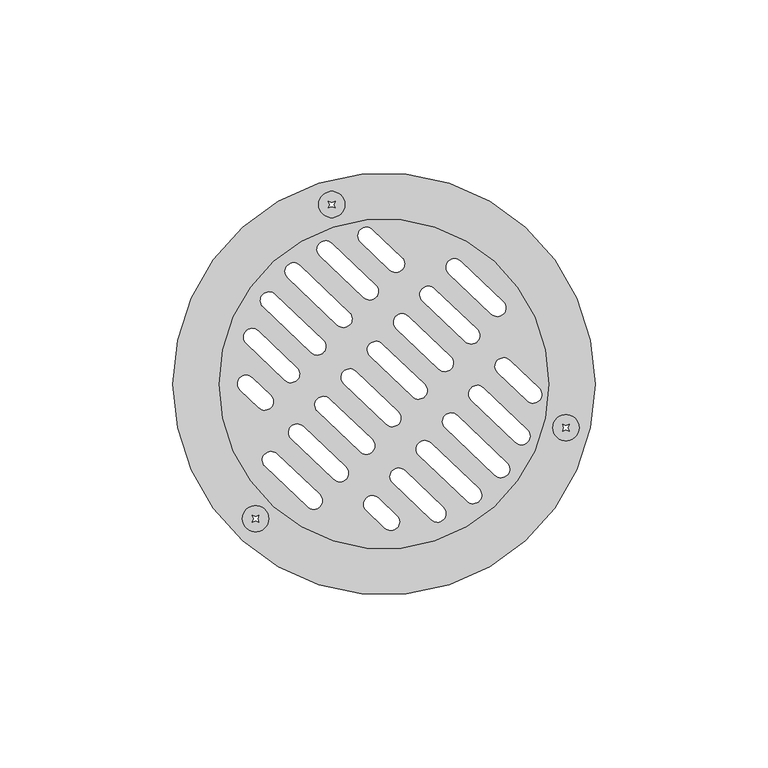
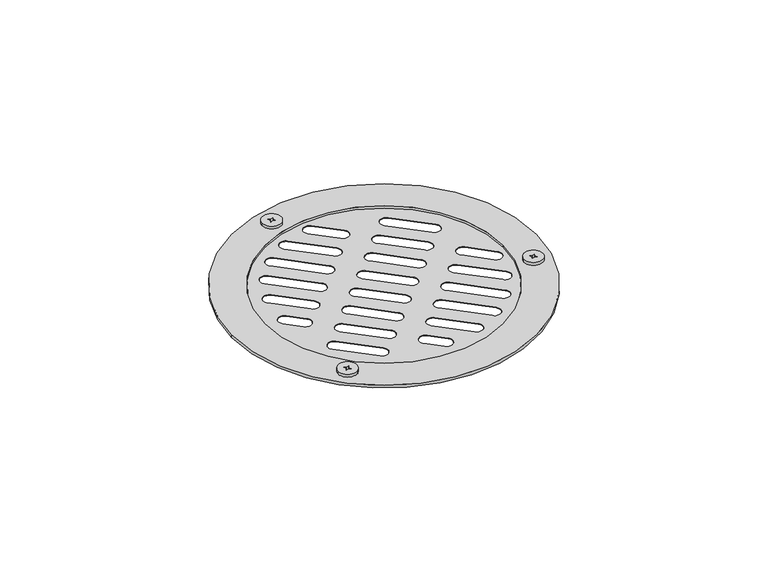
"""IFC4 building model written with IfcOpenShell, lengths in millimetres: flow terminal geometry, Coladera : COLADERA PARA REGADERA."""

from ifc_helpers import new_model, si_unit, point, frame, frame_2d, origin, origin_with_axes, origin_2d, place, context, project, spatial, polyline, circle_curve, trimmed, segment, composite_curve, outline, extrude, source, transform, mapped, element, save


def flow_terminal_b4af5928(model_context):
    return source(origin(), model_context, "Body", "SweptSolid", [
        extrude(outline(composite_curve([segment(trimmed(circle_curve(frame_2d((-37.1322855, -38.9481061)), 3.7883539), [point((-40.9206393, -38.9481061))], [point((-33.3439316, -38.9481061))], False, "CARTESIAN"), True, "CONTINUOUS"), segment(trimmed(circle_curve(frame_2d((-37.1322855, -38.9481061)), 3.7883539), [point((-33.3439316, -38.9481061))], [point((-40.9206393, -38.9481061))], False, "CARTESIAN"), True, "CONTINUOUS")], self_intersect=False), holes=[polyline([(-37.1322855, -38.367521), (-38.1064645, -37.9739271), (-37.7128706, -38.9481061), (-38.1064645, -39.9222851), (-37.1322855, -39.5286913), (-36.1581064, -39.9222851), (-36.5517003, -38.9481061), (-36.1581064, -37.9739271), (-37.1322855, -38.367521)])]), frame((0.0, 0.0, 1.2), z_axis=(0.0, 0.0, 1.0), x_axis=(1.0, 0.0, 0.0)), (0.0, 0.0, 1.0), 1.2),
        extrude(outline(composite_curve([segment(trimmed(circle_curve(frame_2d((52.604559, -12.6384307)), 3.7883539), [point((48.8162051, -12.6384307))], [point((56.3929128, -12.6384307))], False, "CARTESIAN"), True, "CONTINUOUS"), segment(trimmed(circle_curve(frame_2d((52.604559, -12.6384307)), 3.7883539), [point((56.3929128, -12.6384307))], [point((48.8162051, -12.6384307))], False, "CARTESIAN"), True, "CONTINUOUS")], self_intersect=False), holes=[polyline([(52.604559, -12.0578456), (51.6303799, -11.6642517), (52.0239738, -12.6384307), (51.6303799, -13.6126098), (52.604559, -13.2190159), (53.578738, -13.6126098), (53.1851441, -12.6384307), (53.578738, -11.6642517), (52.604559, -12.0578456)])]), frame((0.0, 0.0, 1.2), z_axis=(0.0, 0.0, 1.0), x_axis=(1.0, 0.0, 0.0)), (0.0, 0.0, 1.0), 1.2),
        extrude(outline(composite_curve([segment(trimmed(circle_curve(frame_2d((-15.0996699, 51.8916971)), 3.7883539), [point((-18.8880238, 51.8916971))], [point((-11.311316, 51.8916971))], False, "CARTESIAN"), True, "CONTINUOUS"), segment(trimmed(circle_curve(frame_2d((-15.0996699, 51.8916971)), 3.7883539), [point((-11.311316, 51.8916971))], [point((-18.8880238, 51.8916971))], False, "CARTESIAN"), True, "CONTINUOUS")], self_intersect=False), holes=[polyline([(-15.0996699, 52.4722822), (-16.0738489, 52.8658761), (-15.680255, 51.8916971), (-16.0738489, 50.917518), (-15.0996699, 51.3111119), (-14.1254909, 50.917518), (-14.5190847, 51.8916971), (-14.1254909, 52.8658761), (-15.0996699, 52.4722822)])]), frame((0.0, 0.0, 1.2), z_axis=(0.0, 0.0, 1.0), x_axis=(1.0, 0.0, 0.0)), (0.0, 0.0, 1.0), 1.2),
        extrude(outline(composite_curve([segment(trimmed(circle_curve(origin_2d(), 47.6774646), [point((47.6774646, 0.0))], [point((-47.6774646, 0.0))], False, "CARTESIAN"), True, "CONTINUOUS"), segment(trimmed(circle_curve(origin_2d(), 47.6774646), [point((-47.6774646, 0.0))], [point((47.6774646, 0.0))], False, "CARTESIAN"), True, "CONTINUOUS")], self_intersect=False), holes=[composite_curve([segment(trimmed(circle_curve(frame_2d((3.4559207, 34.7400642)), 2.5), [point((5.2655992, 33.0152269))], [point((5.1807581, 36.5497427))], True, "CARTESIAN"), True, "CONTINUOUS"), segment(polyline([(5.1807581, 36.5497427), (-3.3323765, 44.6637656)]), True, "CONTINUOUS"), segment(trimmed(circle_curve(frame_2d((-5.0572138, 42.8540871)), 2.5), [point((-3.3323765, 44.6637656))], [point((-5.484691, 45.3172687))], True, "CARTESIAN"), True, "CONTINUOUS"), segment(trimmed(circle_curve(frame_2d((-5.0572138, 42.8540871)), 2.5), [point((-5.484691, 45.3172687))], [point((-6.7820512, 41.0444087))], True, "CARTESIAN"), True, "CONTINUOUS"), segment(polyline([(-6.7820512, 41.0444087), (1.7310834, 32.9303858)]), True, "CONTINUOUS"), segment(trimmed(circle_curve(frame_2d((3.4559207, 34.7400642)), 2.5), [point((1.7310834, 32.9303858))], [point((5.2655992, 33.0152269))], True, "CARTESIAN"), True, "CONTINUOUS")], self_intersect=False), composite_curve([segment(trimmed(circle_curve(frame_2d((-4.1333636, 26.777479)), 2.5), [point((-2.3236851, 25.0526417))], [point((-2.4085262, 28.5871575))], True, "CARTESIAN"), True, "CONTINUOUS"), segment(polyline([(-2.4085262, 28.5871575), (-15.1555163, 40.7365447)]), True, "CONTINUOUS"), segment(trimmed(circle_curve(frame_2d((-16.8803536, 38.9268663)), 2.5), [point((-15.1555163, 40.7365447))], [point((-18.011589, 41.1562847))], True, "CARTESIAN"), True, "CONTINUOUS"), segment(trimmed(circle_curve(frame_2d((-16.8803536, 38.9268663)), 2.5), [point((-18.011589, 41.1562847))], [point((-18.605191, 37.1171878))], True, "CARTESIAN"), True, "CONTINUOUS"), segment(polyline([(-18.605191, 37.1171878), (-5.8582009, 24.9678006)]), True, "CONTINUOUS"), segment(trimmed(circle_curve(frame_2d((-4.1333636, 26.777479)), 2.5), [point((-5.8582009, 24.9678006))], [point((-2.3236851, 25.0526417))], True, "CARTESIAN"), True, "CONTINUOUS")], self_intersect=False), composite_curve([segment(trimmed(circle_curve(frame_2d((-11.7226479, 18.8148938)), 2.5), [point((-9.9129694, 17.0900564))], [point((-9.9978106, 20.6245722))], True, "CARTESIAN"), True, "CONTINUOUS"), segment(polyline([(-9.9978106, 20.6245722), (-24.4058975, 34.3571811)]), True, "CONTINUOUS"), segment(trimmed(circle_curve(frame_2d((-26.1307348, 32.5475026)), 2.5), [point((-24.4058975, 34.3571811))], [point((-27.8125882, 34.397197))], True, "CARTESIAN"), True, "CONTINUOUS"), segment(trimmed(circle_curve(frame_2d((-26.1307348, 32.5475026)), 2.5), [point((-27.8125882, 34.397197))], [point((-27.8555722, 30.7378241))], True, "CARTESIAN"), True, "CONTINUOUS"), segment(polyline([(-27.8555722, 30.7378241), (-13.4474853, 17.0052153)]), True, "CONTINUOUS"), segment(trimmed(circle_curve(frame_2d((-11.7226479, 18.8148938)), 2.5), [point((-13.4474853, 17.0052153))], [point((-9.9129694, 17.0900564))], True, "CARTESIAN"), True, "CONTINUOUS")], self_intersect=False), composite_curve([segment(trimmed(circle_curve(frame_2d((-19.3119322, 10.8523086)), 2.5), [point((-17.5022538, 9.1274712))], [point((-17.5870949, 12.661987))], True, "CARTESIAN"), True, "CONTINUOUS"), segment(polyline([(-17.5870949, 12.661987), (-31.5162223, 25.9380908)]), True, "CONTINUOUS"), segment(trimmed(circle_curve(frame_2d((-33.2410596, 24.1284124)), 2.5), [point((-31.5162223, 25.9380908))], [point((-35.3461466, 25.4769704))], True, "CARTESIAN"), True, "CONTINUOUS"), segment(trimmed(circle_curve(frame_2d((-33.2410596, 24.1284124)), 2.5), [point((-35.3461466, 25.4769704))], [point((-34.965897, 22.3187339))], True, "CARTESIAN"), True, "CONTINUOUS"), segment(polyline([(-34.965897, 22.3187339), (-21.0367696, 9.0426301)]), True, "CONTINUOUS"), segment(trimmed(circle_curve(frame_2d((-19.3119322, 10.8523086)), 2.5), [point((-21.0367696, 9.0426301))], [point((-17.5022538, 9.1274712))], True, "CARTESIAN"), True, "CONTINUOUS")], self_intersect=False), composite_curve([segment(trimmed(circle_curve(frame_2d((-26.9012165, 2.8897233)), 2.5), [point((-25.0915381, 1.164886))], [point((-25.1763792, 4.6994018))], True, "CARTESIAN"), True, "CONTINUOUS"), segment(polyline([(-25.1763792, 4.6994018), (-36.3733158, 15.371405)]), True, "CONTINUOUS"), segment(trimmed(circle_curve(frame_2d((-38.0981532, 13.5617266)), 2.5), [point((-36.3733158, 15.371405))], [point((-40.4923529, 14.2813152))], True, "CARTESIAN"), True, "CONTINUOUS"), segment(trimmed(circle_curve(frame_2d((-38.0981532, 13.5617266)), 2.5), [point((-40.4923529, 14.2813152))], [point((-39.8229905, 11.7520481))], True, "CARTESIAN"), True, "CONTINUOUS"), segment(polyline([(-39.8229905, 11.7520481), (-28.6260539, 1.0800449)]), True, "CONTINUOUS"), segment(trimmed(circle_curve(frame_2d((-26.9012165, 2.8897233)), 2.5), [point((-28.6260539, 1.0800449))], [point((-25.0915381, 1.164886))], True, "CARTESIAN"), True, "CONTINUOUS")], self_intersect=False), composite_curve([segment(trimmed(circle_curve(frame_2d((-34.4905009, -5.0728619)), 2.5), [point((-32.6808224, -6.7976992))], [point((-32.7656635, -3.2631834))], True, "CARTESIAN"), True, "CONTINUOUS"), segment(polyline([(-32.7656635, -3.2631834), (-38.1261955, 1.8460368)]), True, "CONTINUOUS"), segment(trimmed(circle_curve(frame_2d((-39.8510328, 0.0363583)), 2.5), [point((-38.1261955, 1.8460368))], [point((-42.3495706, -0.0491345))], True, "CARTESIAN"), True, "CONTINUOUS"), segment(trimmed(circle_curve(frame_2d((-39.8510328, 0.0363583)), 2.5), [point((-42.3495706, -0.0491345))], [point((-41.5758702, -1.7733202))], True, "CARTESIAN"), True, "CONTINUOUS"), segment(polyline([(-41.5758702, -1.7733202), (-36.2153382, -6.8825404)]), True, "CONTINUOUS"), segment(trimmed(circle_curve(frame_2d((-34.4905009, -5.0728619)), 2.5), [point((-36.2153382, -6.8825404))], [point((-32.6808224, -6.7976992))], True, "CARTESIAN"), True, "CONTINUOUS")], self_intersect=False), composite_curve([segment(polyline([(-18.6388063, -31.9238168), (-30.9446198, -20.1949229)]), True, "CONTINUOUS"), segment(trimmed(circle_curve(frame_2d((-32.6694572, -22.0046013)), 2.5), [point((-30.9446198, -20.1949229))], [point((-34.4791357, -20.279764))], True, "CARTESIAN"), True, "CONTINUOUS"), segment(trimmed(circle_curve(frame_2d((-32.6694572, -22.0046013)), 2.5), [point((-34.4791357, -20.279764))], [point((-34.3942945, -23.8142798))], True, "CARTESIAN"), True, "CONTINUOUS"), segment(polyline([(-34.3942945, -23.8142798), (-22.088481, -35.5431737)]), True, "CONTINUOUS"), segment(trimmed(circle_curve(frame_2d((-20.3636437, -33.7334953)), 2.5), [point((-22.088481, -35.5431737))], [point((-18.5539652, -35.4583326))], True, "CARTESIAN"), True, "CONTINUOUS"), segment(trimmed(circle_curve(frame_2d((-20.3636437, -33.7334953)), 2.5), [point((-18.5539652, -35.4583326))], [point((-18.6388063, -31.9238168))], True, "CARTESIAN"), True, "CONTINUOUS")], self_intersect=False), composite_curve([segment(polyline([(-11.049522, -23.9612316), (-23.3553355, -12.2323376)]), True, "CONTINUOUS"), segment(trimmed(circle_curve(frame_2d((-25.0801729, -14.0420161)), 2.5), [point((-23.3553355, -12.2323376))], [point((-26.8898513, -12.3171788))], True, "CARTESIAN"), True, "CONTINUOUS"), segment(trimmed(circle_curve(frame_2d((-25.0801729, -14.0420161)), 2.5), [point((-26.8898513, -12.3171788))], [point((-26.8050102, -15.8516946))], True, "CARTESIAN"), True, "CONTINUOUS"), segment(polyline([(-26.8050102, -15.8516946), (-14.4991967, -27.5805885)]), True, "CONTINUOUS"), segment(trimmed(circle_curve(frame_2d((-12.7743593, -25.77091)), 2.5), [point((-14.4991967, -27.5805885))], [point((-10.9646809, -27.4957474))], True, "CARTESIAN"), True, "CONTINUOUS"), segment(trimmed(circle_curve(frame_2d((-12.7743593, -25.77091)), 2.5), [point((-10.9646809, -27.4957474))], [point((-11.049522, -23.9612316))], True, "CARTESIAN"), True, "CONTINUOUS")], self_intersect=False), composite_curve([segment(polyline([(-3.4602377, -15.9986464), (-15.7660512, -4.2697524)]), True, "CONTINUOUS"), segment(trimmed(circle_curve(frame_2d((-17.4908886, -6.0794309)), 2.5), [point((-15.7660512, -4.2697524))], [point((-19.300567, -4.3545935))], True, "CARTESIAN"), True, "CONTINUOUS"), segment(trimmed(circle_curve(frame_2d((-17.4908886, -6.0794309)), 2.5), [point((-19.300567, -4.3545935))], [point((-19.2157259, -7.8891093))], True, "CARTESIAN"), True, "CONTINUOUS"), segment(polyline([(-19.2157259, -7.8891093), (-6.9099124, -19.6180033)]), True, "CONTINUOUS"), segment(trimmed(circle_curve(frame_2d((-5.185075, -17.8083248)), 2.5), [point((-6.9099124, -19.6180033))], [point((-3.3753966, -19.5331622))], True, "CARTESIAN"), True, "CONTINUOUS"), segment(trimmed(circle_curve(frame_2d((-5.185075, -17.8083248)), 2.5), [point((-3.3753966, -19.5331622))], [point((-3.4602377, -15.9986464))], True, "CARTESIAN"), True, "CONTINUOUS")], self_intersect=False), composite_curve([segment(polyline([(4.1290466, -8.0360611), (-8.1767669, 3.6928328)]), True, "CONTINUOUS"), segment(trimmed(circle_curve(frame_2d((-9.9016042, 1.8831544)), 2.5), [point((-8.1767669, 3.6928328))], [point((-11.7112827, 3.6079917))], True, "CARTESIAN"), True, "CONTINUOUS"), segment(trimmed(circle_curve(frame_2d((-9.9016042, 1.8831544)), 2.5), [point((-11.7112827, 3.6079917))], [point((-11.6264416, 0.0734759))], True, "CARTESIAN"), True, "CONTINUOUS"), segment(polyline([(-11.6264416, 0.0734759), (0.679372, -11.655418)]), True, "CONTINUOUS"), segment(trimmed(circle_curve(frame_2d((2.4042093, -9.8457396)), 2.5), [point((0.679372, -11.655418))], [point((4.2138878, -11.5705769))], True, "CARTESIAN"), True, "CONTINUOUS"), segment(trimmed(circle_curve(frame_2d((2.4042093, -9.8457396)), 2.5), [point((4.2138878, -11.5705769))], [point((4.1290466, -8.0360611))], True, "CARTESIAN"), True, "CONTINUOUS")], self_intersect=False), composite_curve([segment(polyline([(11.718331, -0.0734759), (-0.5874826, 11.655418)]), True, "CONTINUOUS"), segment(trimmed(circle_curve(frame_2d((-2.3123199, 9.8457396)), 2.5), [point((-0.5874826, 11.655418))], [point((-4.1219984, 11.5705769))], True, "CARTESIAN"), True, "CONTINUOUS"), segment(trimmed(circle_curve(frame_2d((-2.3123199, 9.8457396)), 2.5), [point((-4.1219984, 11.5705769))], [point((-4.0371573, 8.0360611))], True, "CARTESIAN"), True, "CONTINUOUS"), segment(polyline([(-4.0371573, 8.0360611), (8.2686563, -3.6928328)]), True, "CONTINUOUS"), segment(trimmed(circle_curve(frame_2d((9.9934936, -1.8831544)), 2.5), [point((8.2686563, -3.6928328))], [point((11.8031721, -3.6079917))], True, "CARTESIAN"), True, "CONTINUOUS"), segment(trimmed(circle_curve(frame_2d((9.9934936, -1.8831544)), 2.5), [point((11.8031721, -3.6079917))], [point((11.718331, -0.0734759))], True, "CARTESIAN"), True, "CONTINUOUS")], self_intersect=False), composite_curve([segment(polyline([(19.3076153, 7.8891093), (7.0018018, 19.6180033)]), True, "CONTINUOUS"), segment(trimmed(circle_curve(frame_2d((5.2769644, 17.8083248)), 2.5), [point((7.0018018, 19.6180033))], [point((3.4672859, 19.5331622))], True, "CARTESIAN"), True, "CONTINUOUS"), segment(trimmed(circle_curve(frame_2d((5.2769644, 17.8083248)), 2.5), [point((3.4672859, 19.5331622))], [point((3.5521271, 15.9986464))], True, "CARTESIAN"), True, "CONTINUOUS"), segment(polyline([(3.5521271, 15.9986464), (15.8579406, 4.2697524)]), True, "CONTINUOUS"), segment(trimmed(circle_curve(frame_2d((17.5827779, 6.0794309)), 2.5), [point((15.8579406, 4.2697524))], [point((19.3924564, 4.3545935))], True, "CARTESIAN"), True, "CONTINUOUS"), segment(trimmed(circle_curve(frame_2d((17.5827779, 6.0794309)), 2.5), [point((19.3924564, 4.3545935))], [point((19.3076153, 7.8891093))], True, "CARTESIAN"), True, "CONTINUOUS")], self_intersect=False), composite_curve([segment(polyline([(26.8968996, 15.8516946), (14.5910861, 27.5805885)]), True, "CONTINUOUS"), segment(trimmed(circle_curve(frame_2d((12.8662487, 25.77091)), 2.5), [point((14.5910861, 27.5805885))], [point((11.0565703, 27.4957474))], True, "CARTESIAN"), True, "CONTINUOUS"), segment(trimmed(circle_curve(frame_2d((12.8662487, 25.77091)), 2.5), [point((11.0565703, 27.4957474))], [point((11.1414114, 23.9612316))], True, "CARTESIAN"), True, "CONTINUOUS"), segment(polyline([(11.1414114, 23.9612316), (23.4472249, 12.2323376)]), True, "CONTINUOUS"), segment(trimmed(circle_curve(frame_2d((25.1720623, 14.0420161)), 2.5), [point((23.4472249, 12.2323376))], [point((26.9817407, 12.3171788))], True, "CARTESIAN"), True, "CONTINUOUS"), segment(trimmed(circle_curve(frame_2d((25.1720623, 14.0420161)), 2.5), [point((26.9817407, 12.3171788))], [point((26.8968996, 15.8516946))], True, "CARTESIAN"), True, "CONTINUOUS")], self_intersect=False), composite_curve([segment(polyline([(34.4861839, 23.8142798), (22.1803704, 35.5431737)]), True, "CONTINUOUS"), segment(trimmed(circle_curve(frame_2d((20.455533, 33.7334953)), 2.5), [point((22.1803704, 35.5431737))], [point((18.6458546, 35.4583326))], True, "CARTESIAN"), True, "CONTINUOUS"), segment(trimmed(circle_curve(frame_2d((20.455533, 33.7334953)), 2.5), [point((18.6458546, 35.4583326))], [point((18.7306957, 31.9238168))], True, "CARTESIAN"), True, "CONTINUOUS"), segment(polyline([(18.7306957, 31.9238168), (31.0365092, 20.1949229)]), True, "CONTINUOUS"), segment(trimmed(circle_curve(frame_2d((32.7613466, 22.0046013)), 2.5), [point((31.0365092, 20.1949229))], [point((34.571025, 20.279764))], True, "CARTESIAN"), True, "CONTINUOUS"), segment(trimmed(circle_curve(frame_2d((32.7613466, 22.0046013)), 2.5), [point((34.571025, 20.279764))], [point((34.4861839, 23.8142798))], True, "CARTESIAN"), True, "CONTINUOUS")], self_intersect=False), composite_curve([segment(polyline([(44.8203622, -1.2314825), (36.3072276, 6.8825404)]), True, "CONTINUOUS"), segment(trimmed(circle_curve(frame_2d((34.5823903, 5.0728619)), 2.5), [point((36.3072276, 6.8825404))], [point((32.7727118, 6.7976992))], True, "CARTESIAN"), True, "CONTINUOUS"), segment(trimmed(circle_curve(frame_2d((34.5823903, 5.0728619)), 2.5), [point((32.7727118, 6.7976992))], [point((32.8575529, 3.2631834))], True, "CARTESIAN"), True, "CONTINUOUS"), segment(polyline([(32.8575529, 3.2631834), (41.3706875, -4.8508394)]), True, "CONTINUOUS"), segment(trimmed(circle_curve(frame_2d((43.0955248, -3.041161)), 2.5), [point((41.3706875, -4.8508394))], [point((45.5763797, -3.3499634))], True, "CARTESIAN"), True, "CONTINUOUS"), segment(trimmed(circle_curve(frame_2d((43.0955248, -3.041161)), 2.5), [point((45.5763797, -3.3499634))], [point((44.8203622, -1.2314825))], True, "CARTESIAN"), True, "CONTINUOUS")], self_intersect=False), composite_curve([segment(polyline([(41.4649333, -13.2294321), (28.7179433, -1.0800449)]), True, "CONTINUOUS"), segment(trimmed(circle_curve(frame_2d((26.9931059, -2.8897233)), 2.5), [point((28.7179433, -1.0800449))], [point((25.1834275, -1.164886))], True, "CARTESIAN"), True, "CONTINUOUS"), segment(trimmed(circle_curve(frame_2d((26.9931059, -2.8897233)), 2.5), [point((25.1834275, -1.164886))], [point((25.2682686, -4.6994018))], True, "CARTESIAN"), True, "CONTINUOUS"), segment(polyline([(25.2682686, -4.6994018), (38.0152586, -16.848789)]), True, "CONTINUOUS"), segment(trimmed(circle_curve(frame_2d((39.740096, -15.0391106)), 2.5), [point((38.0152586, -16.848789))], [point((42.021223, -16.0620767))], True, "CARTESIAN"), True, "CONTINUOUS"), segment(trimmed(circle_curve(frame_2d((39.740096, -15.0391106)), 2.5), [point((42.021223, -16.0620767))], [point((41.4649333, -13.2294321))], True, "CARTESIAN"), True, "CONTINUOUS")], self_intersect=False), composite_curve([segment(polyline([(35.5367459, -22.7752389), (21.128659, -9.0426301)]), True, "CONTINUOUS"), segment(trimmed(circle_curve(frame_2d((19.4038216, -10.8523086)), 2.5), [point((21.128659, -9.0426301))], [point((17.5941432, -9.1274712))], True, "CARTESIAN"), True, "CONTINUOUS"), segment(trimmed(circle_curve(frame_2d((19.4038216, -10.8523086)), 2.5), [point((17.5941432, -9.1274712))], [point((17.6789843, -12.661987))], True, "CARTESIAN"), True, "CONTINUOUS"), segment(polyline([(17.6789843, -12.661987), (32.0870712, -26.3945958)]), True, "CONTINUOUS"), segment(trimmed(circle_curve(frame_2d((33.8119085, -24.5849174)), 2.5), [point((32.0870712, -26.3945958))], [point((35.7401672, -26.1760863))], True, "CARTESIAN"), True, "CONTINUOUS"), segment(trimmed(circle_curve(frame_2d((33.8119085, -24.5849174)), 2.5), [point((35.7401672, -26.1760863))], [point((35.5367459, -22.7752389))], True, "CARTESIAN"), True, "CONTINUOUS")], self_intersect=False), composite_curve([segment(polyline([(27.468502, -30.2813191), (13.5393746, -17.0052153)]), True, "CONTINUOUS"), segment(trimmed(circle_curve(frame_2d((11.8145373, -18.8148938)), 2.5), [point((13.5393746, -17.0052153))], [point((10.0048588, -17.0900564))], True, "CARTESIAN"), True, "CONTINUOUS"), segment(trimmed(circle_curve(frame_2d((11.8145373, -18.8148938)), 2.5), [point((10.0048588, -17.0900564))], [point((10.0897, -20.6245722))], True, "CARTESIAN"), True, "CONTINUOUS"), segment(polyline([(10.0897, -20.6245722), (24.0188273, -33.900676)]), True, "CONTINUOUS"), segment(trimmed(circle_curve(frame_2d((25.7436647, -32.0909976)), 2.5), [point((24.0188273, -33.900676))], [point((27.1916708, -34.1289569))], True, "CARTESIAN"), True, "CONTINUOUS"), segment(trimmed(circle_curve(frame_2d((25.7436647, -32.0909976)), 2.5), [point((27.1916708, -34.1289569))], [point((27.468502, -30.2813191))], True, "CARTESIAN"), True, "CONTINUOUS")], self_intersect=False), composite_curve([segment(polyline([(17.1470269, -35.6398038), (5.9500903, -24.9678006)]), True, "CONTINUOUS"), segment(trimmed(circle_curve(frame_2d((4.225253, -26.777479)), 2.5), [point((5.9500903, -24.9678006))], [point((2.4155745, -25.0526417))], True, "CARTESIAN"), True, "CONTINUOUS"), segment(trimmed(circle_curve(frame_2d((4.225253, -26.777479)), 2.5), [point((2.4155745, -25.0526417))], [point((2.5004156, -28.5871575))], True, "CARTESIAN"), True, "CONTINUOUS"), segment(polyline([(2.5004156, -28.5871575), (13.6973523, -39.2591607)]), True, "CONTINUOUS"), segment(trimmed(circle_curve(frame_2d((15.4221896, -37.4494823)), 2.5), [point((13.6973523, -39.2591607))], [point((16.2558222, -39.8063991))], True, "CARTESIAN"), True, "CONTINUOUS"), segment(trimmed(circle_curve(frame_2d((15.4221896, -37.4494823)), 2.5), [point((16.2558222, -39.8063991))], [point((17.1470269, -35.6398038))], True, "CARTESIAN"), True, "CONTINUOUS")], self_intersect=False), composite_curve([segment(polyline([(3.721338, -38.039606), (-1.639194, -32.9303858)]), True, "CONTINUOUS"), segment(trimmed(circle_curve(frame_2d((-3.3640313, -34.7400642)), 2.5), [point((-1.639194, -32.9303858))], [point((-5.1737098, -33.0152269))], True, "CARTESIAN"), True, "CONTINUOUS"), segment(trimmed(circle_curve(frame_2d((-3.3640313, -34.7400642)), 2.5), [point((-5.1737098, -33.0152269))], [point((-5.0888687, -36.5497427))], True, "CARTESIAN"), True, "CONTINUOUS"), segment(polyline([(-5.0888687, -36.5497427), (0.2716633, -41.6589629)]), True, "CONTINUOUS"), segment(trimmed(circle_curve(frame_2d((1.9965006, -39.8492844)), 2.5), [point((0.2716633, -41.6589629))], [point((2.0309851, -42.3490466))], True, "CARTESIAN"), True, "CONTINUOUS"), segment(trimmed(circle_curve(frame_2d((1.9965006, -39.8492844)), 2.5), [point((2.0309851, -42.3490466))], [point((3.721338, -38.039606))], True, "CARTESIAN"), True, "CONTINUOUS")], self_intersect=False)]), origin_with_axes(), (0.0, 0.0, 1.0), 0.2185604),
        extrude(outline(composite_curve([segment(trimmed(circle_curve(origin_2d(), 61.0215562), [point((-61.0215562, 0.0))], [point((61.0215562, 0.0))], False, "CARTESIAN"), True, "CONTINUOUS"), segment(trimmed(circle_curve(origin_2d(), 61.0215562), [point((61.0215562, 0.0))], [point((-61.0215562, 0.0))], False, "CARTESIAN"), True, "CONTINUOUS")], self_intersect=False), holes=[composite_curve([segment(trimmed(circle_curve(frame_2d((-15.0996699, 51.8916971)), 3.4170192), [point((-18.5166891, 51.8916971))], [point((-11.6826507, 51.8916971))], True, "CARTESIAN"), True, "CONTINUOUS"), segment(trimmed(circle_curve(frame_2d((-15.0996699, 51.8916971)), 3.4170192), [point((-11.6826507, 51.8916971))], [point((-18.5166891, 51.8916971))], True, "CARTESIAN"), True, "CONTINUOUS")], self_intersect=False), composite_curve([segment(trimmed(circle_curve(frame_2d((52.604559, -12.6384307)), 3.4170192), [point((49.1875397, -12.6384307))], [point((56.0215782, -12.6384307))], True, "CARTESIAN"), True, "CONTINUOUS"), segment(trimmed(circle_curve(frame_2d((52.604559, -12.6384307)), 3.4170192), [point((56.0215782, -12.6384307))], [point((49.1875397, -12.6384307))], True, "CARTESIAN"), True, "CONTINUOUS")], self_intersect=False), composite_curve([segment(trimmed(circle_curve(frame_2d((-37.1322855, -39.006949)), 3.4758621), [point((-40.6081476, -39.006949))], [point((-33.6564234, -39.006949))], True, "CARTESIAN"), True, "CONTINUOUS"), segment(trimmed(circle_curve(frame_2d((-37.1322855, -39.006949)), 3.4758621), [point((-33.6564234, -39.006949))], [point((-40.6081476, -39.006949))], True, "CARTESIAN"), True, "CONTINUOUS")], self_intersect=False), composite_curve([segment(trimmed(circle_curve(origin_2d(), 47.6774646), [point((-47.6774646, 0.0))], [point((47.6774646, 0.0))], True, "CARTESIAN"), True, "CONTINUOUS"), segment(trimmed(circle_curve(origin_2d(), 47.6774646), [point((47.6774646, 0.0))], [point((-47.6774646, 0.0))], True, "CARTESIAN"), True, "CONTINUOUS")], self_intersect=False)]), origin_with_axes(), (0.0, 0.0, 1.0), 1.2),
    ])


if __name__ == "__main__":
    model = new_model("IFC4")
    model_context = context("Model", 3, world=origin())
    ifc_project = project(units=[si_unit("LENGTHUNIT", "METRE", prefix="MILLI")], contexts=[model_context])
    site = spatial("IfcSite", under=ifc_project)
    building = spatial("IfcBuilding", under=site)
    placement = place(None, origin())
    flow_terminal_shape = flow_terminal_b4af5928(model_context)
    element("IfcFlowTerminal", 1, ObjectType="Coladera : COLADERA PARA REGADERA", at=placement, inside=building, context=model_context, shape_type="MappedRepresentation", body=[
        mapped(flow_terminal_shape, transform((0.0, 0.0, 0.0), x_axis=(1.0, 0.0, 0.0), y_axis=(0.0, 1.0, 0.0), z_axis=(0.0, 0.0, 1.0))),
    ])
    save(model, "model.ifc")
